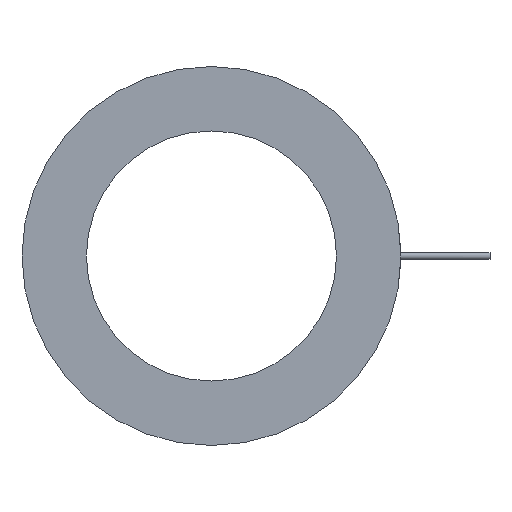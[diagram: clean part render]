
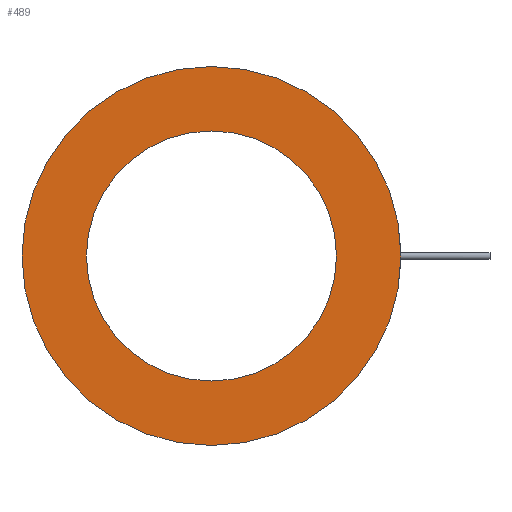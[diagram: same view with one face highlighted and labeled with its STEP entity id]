
A CAD part, front view. The second image highlights one B-rep face of the part: STEP entity #489.
In plain terms, the highlighted planar face has unit normal (0, -1, 0).
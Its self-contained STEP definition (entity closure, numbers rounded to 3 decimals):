
#53=CARTESIAN_POINT('',(0.,0.,0.));
#54=DIRECTION('',(0.,1.,0.));
#55=DIRECTION('',(-1.,0.,0.));
#56=AXIS2_PLACEMENT_3D('',#53,#54,#55);
#58=CARTESIAN_POINT('',(0.,0.,0.));
#59=DIRECTION('',(0.,1.,0.));
#60=DIRECTION('',(1.,0.,0.));
#61=AXIS2_PLACEMENT_3D('',#58,#59,#60);
#63=CARTESIAN_POINT('',(0.,0.,0.));
#64=DIRECTION('',(0.,-1.,0.));
#65=DIRECTION('',(-1.,0.,0.));
#66=AXIS2_PLACEMENT_3D('',#63,#64,#65);
#68=CARTESIAN_POINT('',(0.,0.,0.));
#69=DIRECTION('',(0.,-1.,0.));
#70=DIRECTION('',(1.,0.,0.));
#71=AXIS2_PLACEMENT_3D('',#68,#69,#70);
#324=CARTESIAN_POINT('',(100.,0.,0.));
#325=VERTEX_POINT('',#324);
#326=CARTESIAN_POINT('',(-100.,0.,0.));
#327=VERTEX_POINT('',#326);
#333=CARTESIAN_POINT('',(-65.999,0.,0.));
#334=CARTESIAN_POINT('',(65.999,0.,0.));
#335=VERTEX_POINT('',#333);
#336=VERTEX_POINT('',#334);
#474=CARTESIAN_POINT('',(0.,0.,0.));
#475=DIRECTION('',(0.,1.,0.));
#476=DIRECTION('',(1.,0.,0.));
#477=AXIS2_PLACEMENT_3D('',#474,#475,#476);
#478=PLANE('',#477);
#479=ORIENTED_EDGE('',*,*,#430,.T.);
#480=ORIENTED_EDGE('',*,*,#466,.T.);
#481=EDGE_LOOP('',(#479,#480));
#482=FACE_OUTER_BOUND('',#481,.F.);
#484=ORIENTED_EDGE('',*,*,#483,.T.);
#486=ORIENTED_EDGE('',*,*,#485,.T.);
#487=EDGE_LOOP('',(#484,#486));
#488=FACE_BOUND('',#487,.F.);
#57=CIRCLE('',#56,100.);
#62=CIRCLE('',#61,100.);
#67=CIRCLE('',#66,65.999);
#72=CIRCLE('',#71,65.999);
#430=EDGE_CURVE('',#327,#325,#57,.T.);
#466=EDGE_CURVE('',#325,#327,#62,.T.);
#483=EDGE_CURVE('',#335,#336,#67,.T.);
#485=EDGE_CURVE('',#336,#335,#72,.T.);
#489=ADVANCED_FACE('',(#482,#488),#478,.F.);
